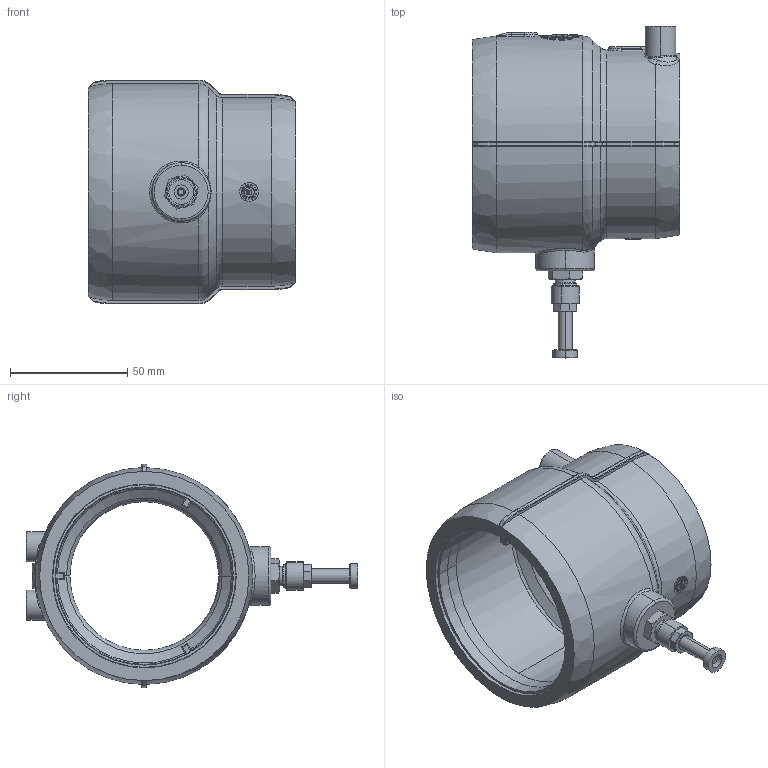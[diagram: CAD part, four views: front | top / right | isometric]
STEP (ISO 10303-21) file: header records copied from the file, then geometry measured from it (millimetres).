
FILE_DESCRIPTION (( 'STEP AP203' ), '1' );
FILE_NAME ('KP_T75-63SC2B.STEP', '2012-01-18T12:00:42', ( '' ), ( '' ), 'SwSTEP 2.0', 'SolidWorks 2012', '' );
FILE_SCHEMA (( 'CONFIG_CONTROL_DESIGN' ));
Length unit declared in the file: millimetre
Products named in the file (1): KP_T75-63SC2B
Bounding box: 88.74 x 141.77 x 95.6 mm (x, y, z)
Volume: 198984.4 mm3; surface area: 54728.5 mm2
Topology: 1 solids, 6 shells, 874 faces, 2224 edges, 1419 vertices
Faces by surface type: plane 357, bspline 216, cylinder 163, cone 88, torus 38, sphere 12
Entity records: 38390 total; most frequent: CARTESIAN_POINT 19582, ORIENTED_EDGE 4436, DIRECTION 3125, EDGE_CURVE 2218, VERTEX_POINT 1417, AXIS2_PLACEMENT_3D 1117, EDGE_LOOP 959, VECTOR 891
